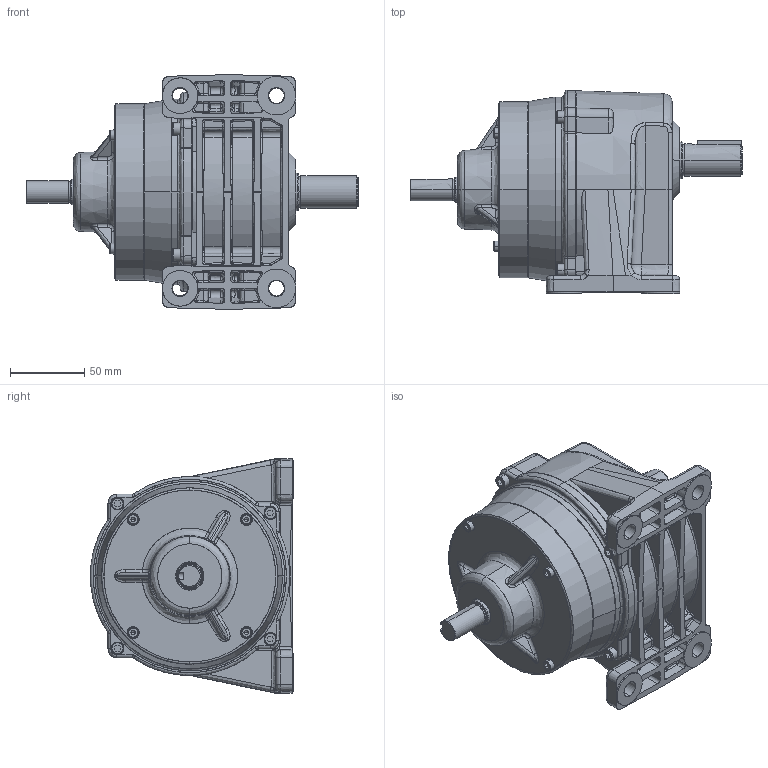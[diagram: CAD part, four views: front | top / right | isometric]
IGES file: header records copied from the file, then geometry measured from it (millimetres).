
Start section: SolidWorks IGES file using analytic representation for surfaces
Bounding box: 224 x 137.05 x 158.36 mm (x, y, z)
Surface area: 167781.7 mm2 (no closed solid volume)
Topology: 0 solids, 0 shells, 899 faces, 9946 edges, 9921 vertices
Faces by surface type: bspline 513, revolution 386
